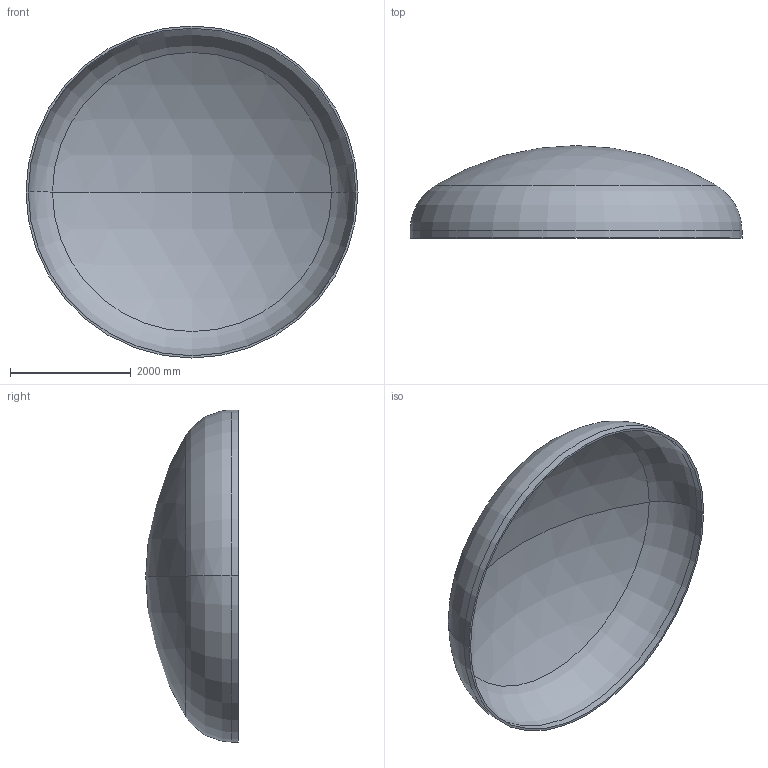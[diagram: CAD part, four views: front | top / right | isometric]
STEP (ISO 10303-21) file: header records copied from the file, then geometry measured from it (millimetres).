
FILE_DESCRIPTION (( 'STEP AP203' ), '1' );
FILE_NAME ('DIN 28013 Korbbogenform_-_Boden DIN 28013 - 5500 x 120 - I - s=37.step', '2016-07-04T10:34:02', ( '' ), ( '' ), 'SwSTEP 2.0', 'SolidWorks 2013', '' );
FILE_SCHEMA (( 'CONFIG_CONTROL_DESIGN' ));
Length unit declared in the file: millimetre
Products named in the file (1): DIN 28013 Korbbogenform_-_Boden DIN 28013 - 5500 x 120 - I - s=37
Bounding box: 5500 x 1532.33 x 5500 mm (x, y, z)
Volume: 1282363565.9 mm3; surface area: 69954803.3 mm2
Topology: 1 solids, 1 shells, 13 faces, 24 edges, 14 vertices
Faces by surface type: torus 4, cylinder 4, sphere 4, plane 1
Entity records: 407 total; most frequent: DIRECTION 72, CARTESIAN_POINT 52, ORIENTED_EDGE 48, AXIS2_PLACEMENT_3D 34, EDGE_CURVE 24, CIRCLE 20, VERTEX_POINT 14, EDGE_LOOP 14
